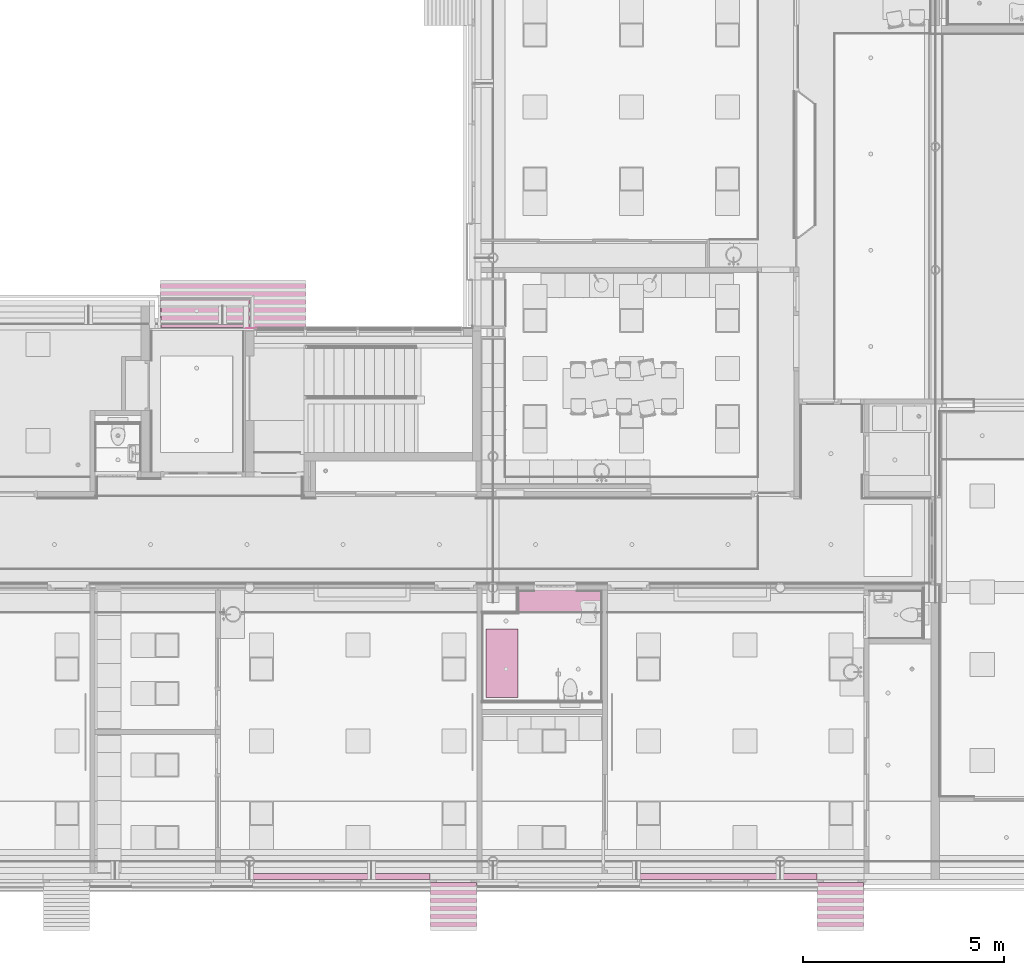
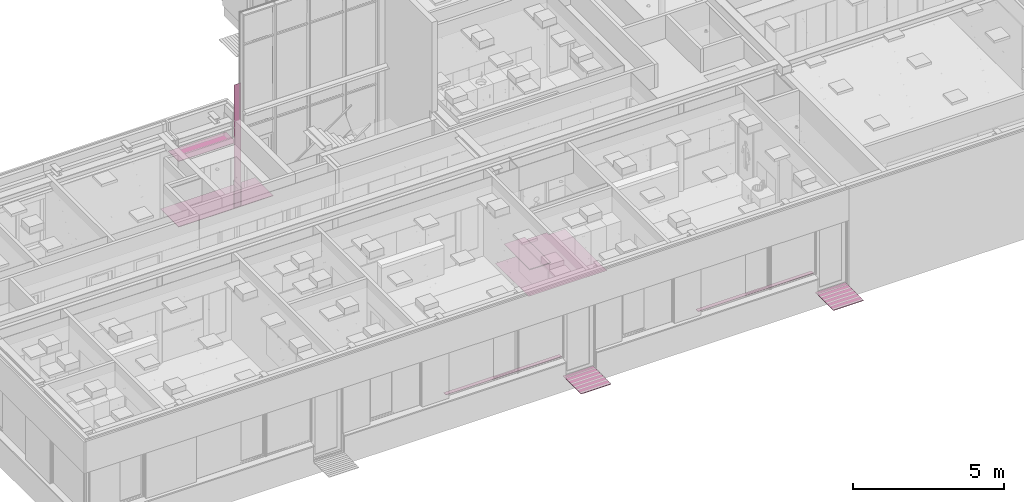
# One storey, part 318 of 347: 9 furnishings.
"""IFC2X3 building model written with IfcOpenShell, lengths in millimetres."""

import ifcopenshell
import ifcopenshell.guid

model = None  # the IFC model being written
_history = None  # IfcOwnerHistory: only IFC2X3 demands one
_inside = {}  # id of a spatial element -> (the spatial element, [elements in it])
_under = {}  # id of a project, library or spatial element -> (it, [spatial elements below it])
_declared = {}  # id of a project -> (the project, [libraries it declares])
_typed = {}  # id of a type object -> (the type object, [elements of that type])
_made_of = {}  # id of a material, layer set ... -> (it, [elements and type objects made of it])


def new_model(schema):
    """Start an empty IFC model of exactly this schema.

    Asked for "IFC4X3", IfcOpenShell would pick the latest addendum, in which some entities
    have other attributes; the version numbers below select the first issue.
    IFC2X3 requires an IfcOwnerHistory on every rooted entity: one is made here for all.
    """
    global model, _history
    if schema == "IFC4X3":
        model = ifcopenshell.file(schema_version=(4, 3, 0, 0))
    else:
        model = ifcopenshell.file(schema=schema)
    _inside.clear()
    _under.clear()
    _declared.clear()
    _typed.clear()
    _made_of.clear()
    _history = None
    if model.schema == "IFC2X3":
        org = make("IfcOrganization", Name="unknown")
        user = make(
            "IfcPersonAndOrganization",
            ThePerson=make("IfcPerson", FamilyName="unknown"),
            TheOrganization=org,
        )
        app = make(
            "IfcApplication",
            ApplicationDeveloper=org,
            Version="unknown",
            ApplicationFullName="unknown",
            ApplicationIdentifier="unknown",
        )
        _history = make(
            "IfcOwnerHistory",
            OwningUser=user,
            OwningApplication=app,
            ChangeAction="ADDED",
            CreationDate=0,
        )
    return model


def make(cls, **values):
    """One entity of the class cls with the attributes given. An attribute that is None is left unset."""
    return model.create_entity(
        cls, **{name: value for name, value in values.items() if value is not None}
    )


def entity(cls, *values):
    """Any entity or typed value of the class cls, its attributes in the order of the schema. None: left unset."""
    e = model.create_entity(cls)
    for i, value in enumerate(values):
        if value is not None:
            e[i] = value
    return e


def rooted(cls, **values):
    """An entity with a GlobalId (a new one), such as an element, a storey or a relation."""
    return make(cls, GlobalId=ifcopenshell.guid.new(), OwnerHistory=_history, **values)


def si_unit(unit_type, name, prefix=None):
    """IfcSIUnit, for example si_unit("LENGTHUNIT", "METRE", prefix="MILLI")."""
    return make("IfcSIUnit", UnitType=unit_type, Prefix=prefix, Name=name)


def converted_unit(unit_type, name, factor, base, dimensions=None, offset=None):
    """IfcConversionBasedUnit, such as the inch: factor (a typed value) times the base unit."""
    return make(
        "IfcConversionBasedUnit"
        if offset is None
        else "IfcConversionBasedUnitWithOffset",
        ConversionOffset=offset,
        Dimensions=None
        if dimensions is None
        else entity("IfcDimensionalExponents", *dimensions),
        UnitType=unit_type,
        Name=name,
        ConversionFactor=make(
            "IfcMeasureWithUnit", ValueComponent=factor, UnitComponent=base
        ),
    )


def derived_unit(unit_type, elements):
    """IfcDerivedUnit: a product of units, each with its exponent."""
    return make(
        "IfcDerivedUnit",
        Elements=[
            make("IfcDerivedUnitElement", Unit=unit, Exponent=power)
            for unit, power in elements
        ],
        UnitType=unit_type,
    )


def money_unit(currency):
    """IfcMonetaryUnit."""
    return make("IfcMonetaryUnit", Currency=currency)


def assignment(units):
    """IfcUnitAssignment: the units of a project."""
    return None if units is None else make("IfcUnitAssignment", Units=units)


def point(xyz):
    """IfcCartesianPoint."""
    return None if xyz is None else make("IfcCartesianPoint", Coordinates=xyz)


def direction(xyz):
    """IfcDirection."""
    return None if xyz is None else make("IfcDirection", DirectionRatios=xyz)


def frame(location, z_axis=None, x_axis=None):
    """IfcAxis2Placement3D, a coordinate frame: its origin and axes. An axis left out is left unset."""
    return make(
        "IfcAxis2Placement3D",
        Location=point(location),
        Axis=direction(z_axis),
        RefDirection=direction(x_axis),
    )


def origin_with_axes():
    """The frame at (0, 0, 0) with the z axis (0, 0, 1) and the x axis (1, 0, 0) written out."""
    return frame((0.0, 0.0, 0.0), z_axis=(0.0, 0.0, 1.0), x_axis=(1.0, 0.0, 0.0))


def place(relative_to, where):
    """IfcLocalPlacement: puts the frame where relative to a parent placement (None: the world)."""
    return make(
        "IfcLocalPlacement", PlacementRelTo=relative_to, RelativePlacement=where
    )


def context(
    kind, dimensions, precision=None, world=None, true_north=None, identifier=None
):
    """IfcGeometricRepresentationContext, for example the 3D "Model" context."""
    return make(
        "IfcGeometricRepresentationContext",
        ContextIdentifier=identifier,
        ContextType=kind,
        CoordinateSpaceDimension=dimensions,
        Precision=precision,
        WorldCoordinateSystem=world,
        TrueNorth=true_north,
    )


def subcontext(parent, identifier, kind, view, scale=None):
    """IfcGeometricRepresentationSubContext, for example "Body" below "Model"."""
    return make(
        "IfcGeometricRepresentationSubContext",
        ContextIdentifier=identifier,
        ContextType=kind,
        ParentContext=parent,
        TargetScale=scale,
        TargetView=view,
    )


def project(units=None, contexts=None):
    """IfcProject with its units and contexts."""
    return rooted(
        "IfcProject",
        Name="project",
        RepresentationContexts=contexts,
        UnitsInContext=assignment(units),
    )


def spatial(cls, under=None, at=None, **own):
    """A site, building, storey or space (cls), placed at a placement, below another one or the project."""
    s = rooted(cls, ObjectPlacement=at, **own)
    if under is not None:
        _under.setdefault(under.id(), (under, []))[1].append(s)
    return s


def faces_of(points, faces, orient=None, outer=None):
    """IfcFace entities. A face is a list of loops; a loop is a list of indices into points, from 0.

    orient and outer hold one flag for each loop. By default every Orientation is true, the
    first loop of a face is its IfcFaceOuterBound and the others are IfcFaceBound.
    """
    made = []
    for i, loops in enumerate(faces):
        bounds = []
        for j, loop in enumerate(loops):
            is_outer = j == 0 if outer is None else outer[i][j]
            bounds.append(
                make(
                    "IfcFaceOuterBound" if is_outer else "IfcFaceBound",
                    Bound=make("IfcPolyLoop", Polygon=[points[k] for k in loop]),
                    Orientation=True if orient is None else orient[i][j],
                )
            )
        made.append(make("IfcFace", Bounds=bounds))
    return made


def faceted_brep(points, faces, orient=None, outer=None, voids=None):
    """IfcFacetedBrep: a solid bounded by flat faces; with voids (closed shells), ...WithVoids."""
    shared = [point(p) for p in points]
    hull = make("IfcClosedShell", CfsFaces=faces_of(shared, faces, orient, outer))
    if voids is None:
        return make("IfcFacetedBrep", Outer=hull)
    return make(
        "IfcFacetedBrepWithVoids",
        Outer=hull,
        Voids=[
            make(cls, CfsFaces=faces_of(shared, fs, o, b)) for cls, fs, o, b in voids
        ],
    )


def shape(context_of_items, identifier, shape_type, items):
    """IfcShapeRepresentation: the items that make up one representation, for example the "Body"."""
    return make(
        "IfcShapeRepresentation",
        ContextOfItems=context_of_items,
        RepresentationIdentifier=identifier,
        RepresentationType=shape_type,
        Items=items,
    )


def material(Name=None, Category=None):
    """IfcMaterial."""
    return make("IfcMaterial", Name=Name, Category=Category)


def made_of(thing, what):
    """Note that an element or type object is made of a material, layer set ...; save() writes the relation."""
    if what is not None:
        _made_of.setdefault(what.id(), (what, []))[1].append(thing)
    return thing


def type_object(cls, material=None, **own):
    """A type object (cls), such as IfcWallType, which elements share."""
    return made_of(rooted(cls, **own), material)


def element(
    cls,
    number,
    at=None,
    inside=None,
    cuts=None,
    type_object=None,
    material=None,
    context=None,
    identifier="Body",
    shape_type=None,
    held_by="IfcProductDefinitionShape",
    body=None,
    shapes=None,
    **own,
):
    """One element of the class cls, such as IfcWall. Its Tag is "e" and its number.

    at: its placement. inside: the storey or other place that contains it. cuts: it is an
    opening in that element (IfcRelVoidsElement). A single representation is given by context,
    identifier, shape_type and body (its items); several are given by shapes. held_by: the class
    of the entity that holds the representations. save() writes the other relations.
    """
    e = rooted(cls, Tag="e%d" % number, ObjectPlacement=at, **own)
    if body is not None:
        shapes = [shape(context, identifier, shape_type, body)]
    if shapes is not None:
        e.Representation = make(held_by, Representations=shapes)
    if inside is not None:
        _inside.setdefault(inside.id(), (inside, []))[1].append(e)
    if cuts is not None:
        rooted(
            "IfcRelVoidsElement", RelatingBuildingElement=cuts, RelatedOpeningElement=e
        )
    if type_object is not None:
        _typed.setdefault(type_object.id(), (type_object, []))[1].append(e)
    return made_of(e, material)


def aggregate(whole, parts):
    """IfcRelAggregates: a whole, such as a stair, and the parts it consists of."""
    return rooted("IfcRelAggregates", RelatingObject=whole, RelatedObjects=parts)


def save(model, path):
    """Write the relations noted so far, then the file.

    IfcRelAggregates (storeys below a building ...), IfcRelContainedInSpatialStructure (elements
    in a storey), IfcRelDefinesByType, IfcRelAssociatesMaterial and IfcRelDeclares: one each for
    every whole, place, type object, material and project.
    """
    for whole, parts in _under.values():
        aggregate(whole, parts)
    for where, things in _inside.values():
        rooted(
            "IfcRelContainedInSpatialStructure",
            RelatedElements=things,
            RelatingStructure=where,
        )
    for kind, things in _typed.values():
        rooted("IfcRelDefinesByType", RelatedObjects=things, RelatingType=kind)
    for what, things in _made_of.values():
        rooted("IfcRelAssociatesMaterial", RelatedObjects=things, RelatingMaterial=what)
    for by, libraries in _declared.values():
        rooted("IfcRelDeclares", RelatingContext=by, RelatedDefinitions=libraries)
    model.write(path)


model = new_model("IFC2X3")

# Units and contexts
model_context = context("Model", 3, precision=0.01, world=origin_with_axes(), true_north=direction((0.0, 1.0)))
plan_context = context("Plan", 3, precision=0.01, world=origin_with_axes(), true_north=direction((0.0, 1.0)))
body_context = subcontext(model_context, "Body", "Model", "MODEL_VIEW")
ifc_project = project(units=[si_unit("LENGTHUNIT", "METRE", prefix="MILLI"), si_unit("AREAUNIT", "SQUARE_METRE"), si_unit("VOLUMEUNIT", "CUBIC_METRE"), converted_unit("PLANEANGLEUNIT", "DEGREE", entity("IfcPlaneAngleMeasure", 0.0174532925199), si_unit("PLANEANGLEUNIT", "RADIAN"), dimensions=[0, 0, 0, 0, 0, 0, 0]), money_unit("EUR"), converted_unit("TIMEUNIT", "Year", entity("IfcTimeMeasure", 31556926.0), si_unit("TIMEUNIT", "SECOND"), dimensions=[0, 0, 1, 0, 0, 0, 0]), si_unit("MASSUNIT", "GRAM", prefix="KILO"), si_unit("THERMODYNAMICTEMPERATUREUNIT", "DEGREE_CELSIUS"), si_unit("LUMINOUSINTENSITYUNIT", "LUMEN"), si_unit("ENERGYUNIT", "JOULE", prefix="MEGA"), derived_unit("THERMALCONDUCTANCEUNIT", [(si_unit("POWERUNIT", "WATT"), 1), (si_unit("LENGTHUNIT", "METRE"), -1), (si_unit("THERMODYNAMICTEMPERATUREUNIT", "KELVIN"), -1)]), derived_unit("SPECIFICHEATCAPACITYUNIT", [(si_unit("ENERGYUNIT", "JOULE"), 1), (si_unit("MASSUNIT", "GRAM", prefix="KILO"), -1), (si_unit("THERMODYNAMICTEMPERATUREUNIT", "KELVIN"), -1)]), derived_unit("MASSDENSITYUNIT", [(si_unit("MASSUNIT", "GRAM", prefix="KILO"), 1), (si_unit("VOLUMEUNIT", "CUBIC_METRE"), -1)])], contexts=[model_context, plan_context])

# Site, building, storey
site_placement = place(None, origin_with_axes())
site = spatial("IfcSite", under=ifc_project, at=site_placement, Name="Site", CompositionType="ELEMENT")
building_placement = place(site_placement, origin_with_axes())
building = spatial("IfcBuilding", under=site, at=building_placement, Name="Naam gebouw", CompositionType="ELEMENT")
storey_placement = place(building_placement, origin_with_axes())
storey = spatial("IfcBuildingStorey", under=building, at=storey_placement, Name="begane grond", CompositionType="ELEMENT", Elevation=0.0)

# Furnishings
ifc_material_1 = material(Name="ALG - LICHTE SCHEIDINGSWAND")
furniture_type_1 = type_object("IfcFurnitureType", Name="44 koof plaf 50", AssemblyPlace="NOTDEFINED")
furnishing_1_placement = place(storey_placement, frame((16295.0000653, 18615.0, 2600.0), z_axis=(0.0, 0.0, 1.0), x_axis=(1.0, 0.0, 0.0)))
element("IfcFurnishingElement", 1, at=furnishing_1_placement, inside=storey, type_object=furniture_type_1, material=ifc_material_1, Name="72_75 vaste inrichting", ObjectType="SHELF", context=body_context, shape_type="Brep", body=[
    faceted_brep([(0.0, 535.000088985, 4.99999880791), (2039.99993473, 535.000088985, 4.99999880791), (2039.99993473, 0.0, 4.99999880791), (2224.99993138, 0.0, 4.99999880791), (2224.99993138, 699.999996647, 4.99999880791), (0.0, 699.999996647, 4.99999880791), (0.0, 535.000088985, 12.0), (2039.99993473, 535.000088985, 12.0), (2039.99993473, 0.0, 12.0), (0.0, 0.0, 12.0), (0.0, 0.0, 0.0), (2224.99993138, 0.0, 0.0), (2224.99993138, 699.999996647, 0.0), (0.0, 699.999996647, 0.0)], [[[0, 1, 2, 3, 4, 5]], [[6, 7, 1, 0]], [[2, 1, 7, 8]], [[3, 2, 8, 9, 10, 11]], [[12, 4, 3, 11]], [[5, 4, 12, 13]], [[6, 0, 5, 13, 10, 9]], [[9, 8, 7, 6]], [[12, 11, 10, 13]]]),
])
ifc_material_2 = material(Name="Hout - Spaanplaat")
furniture_type_2 = type_object("IfcFurnitureType", Name="Hout - Spaanplaat 20", AssemblyPlace="NOTDEFINED")
furnishing_2_placement = place(storey_placement, frame((24400.0, 9390.0, 1000.0), z_axis=(0.0, 0.0, 1.0), x_axis=(1.0, 0.0, 0.0)))
element("IfcFurnishingElement", 2, at=furnishing_2_placement, inside=storey, type_object=furniture_type_2, material=ifc_material_2, Name="72_72 vaste inrichting", ObjectType="SHELF", context=body_context, shape_type="Brep", body=[
    faceted_brep([(0.0, 0.0, 0.0), (0.0, 0.0, -20.0), (800.0, 0.0, -20.0), (800.0, 0.0, 0.0), (0.0, 1700.0, 0.0), (0.0, 1700.0, -20.0), (800.0, 1700.0, -20.0), (800.0, 1700.0, 0.0)], [[[0, 1, 2, 3]], [[4, 5, 1, 0]], [[2, 1, 5, 6]], [[3, 2, 6, 7]], [[4, 0, 3, 7]], [[7, 6, 5, 4]]]),
])
ifc_material_3 = material(Name="42 vensterbank")
furniture_type_3 = type_object("IfcFurnitureType", Name="42 vensterbank 20", AssemblyPlace="NOTDEFINED")
for number, where, z_axis, x_axis, name in (
    (3, (22998.0, 5000.00003278, 720.0), (0.0, 0.0, 1.0), (1.0, 0.0, 0.0), "72_73 vaste inrichting"),
    (4, (32648.0, 4999.99997365, 720.0), (0.0, 0.0, 1.0), (1.0, 0.0, 0.0), "72_73 vaste inrichting"),
):
    element("IfcFurnishingElement", number, at=place(storey_placement, frame(where, z_axis=z_axis, x_axis=x_axis)), inside=storey, type_object=furniture_type_3, material=ifc_material_3, Name=name, ObjectType="SHELF", context=body_context, shape_type="Brep", body=[
        faceted_brep([(0.0, 0.0, 0.0), (0.0, 0.0, -20.0), (-4422.99728633, 0.0, -20.0), (-4422.99728633, 0.0, 0.0), (0.0, -150.000004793, 0.0), (0.0, -150.000004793, -20.0), (-4422.99728633, -150.000004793, -20.0), (-4422.99728633, -150.000004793, 0.0)], [[[0, 1, 2, 3]], [[4, 5, 1, 0]], [[2, 1, 5, 6]], [[3, 2, 6, 7]], [[4, 0, 3, 7]], [[7, 6, 5, 4]]]),
    ])
ifc_material_4 = material(Name="24 Hout gevelbekleding Lariks master")
furniture_type_4 = type_object("IfcFurnitureType", Name="24 Hout gevelbekleding Lariks master 4980", AssemblyPlace="NOTDEFINED")
furnishing_3_placement = place(storey_placement, frame((18677.0, 18595.0000003, 0.0), z_axis=(0.0, 0.0, 1.0), x_axis=(1.0, 0.0, 0.0)))
element("IfcFurnishingElement", 5, at=furnishing_3_placement, inside=storey, type_object=furniture_type_4, material=ifc_material_4, Name="72_74 vaste inrichting", ObjectType="SHELF", context=body_context, shape_type="Brep", body=[
    faceted_brep([(0.0, 0.0, 4980.0), (0.0, 0.0, 0.0), (-272.000002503, 0.0, 0.0), (-272.000002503, 0.0, 4980.0), (0.0, -2.00000110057, 4980.0), (0.0, -2.00000110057, 0.0), (-272.000002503, -2.00000110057, 0.0), (-272.000002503, -2.00000110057, 4980.0)], [[[0, 1, 2, 3]], [[4, 5, 1, 0]], [[2, 1, 5, 6]], [[3, 2, 6, 7]], [[4, 0, 3, 7]], [[7, 6, 5, 4]]]),
])
ifc_material_5 = material(Name="Metaal - Aluminium")
furniture_type_5 = type_object("IfcFurnitureType", Name="Metaal - Aluminium 25", AssemblyPlace="NOTDEFINED")
furnishing_4_placement = place(storey_placement, frame((16285.0000653, 18595.0, -15.0), z_axis=(0.0, 0.0, 1.0), x_axis=(1.0, 0.0, 0.0)))
element("IfcFurnishingElement", 6, at=furnishing_4_placement, inside=storey, type_object=furniture_type_5, material=ifc_material_5, Name="72_43 schoonloop zone 1", ObjectType="SHELF", context=body_context, shape_type="Brep", body=[
    faceted_brep([(0.0, 0.0, 0.0), (0.0, 0.0, -25.0), (3619.99993473, 0.0, -25.0), (3619.99993473, 0.0, 0.0), (0.0, 1199.99997171, 0.0), (0.0, 1199.99997171, -25.0), (3619.99993473, 1199.99997171, -25.0), (3619.99993473, 1199.99997171, 0.0)], [[[0, 1, 2, 3]], [[4, 5, 1, 0]], [[2, 1, 5, 6]], [[3, 2, 6, 7]], [[4, 0, 3, 7]], [[7, 6, 5, 4]]]),
])
for number, where, z_axis, x_axis, name in (
    (7, (33812.0, 4778.00002055, -15.0), (0.0, 0.0, 1.0), (1.0, 0.0, 0.0), "72_43 schoonloop zone 1"),
    (8, (24162.0, 4778.00002055, -15.0), (0.0, 0.0, 1.0), (1.0, 0.0, 0.0), "72_43 schoonloop zone 1"),
):
    element("IfcFurnishingElement", number, at=place(storey_placement, frame(where, z_axis=z_axis, x_axis=x_axis)), inside=storey, type_object=furniture_type_5, material=ifc_material_5, Name=name, ObjectType="SHELF", context=body_context, shape_type="Brep", body=[
        faceted_brep([(0.0, 0.0, 0.0), (0.0, 0.0, -25.0), (-1150.0, 0.0, -25.0), (-1150.0, 0.0, 0.0), (0.0, -1199.99997171, 0.0), (0.0, -1199.99997171, -25.0), (-1150.0, -1199.99997171, -25.0), (-1150.0, -1199.99997171, 0.0)], [[[0, 1, 2, 3]], [[4, 5, 1, 0]], [[2, 1, 5, 6]], [[3, 2, 6, 7]], [[4, 0, 3, 7]], [[7, 6, 5, 4]]]),
    ])
ifc_material_6 = material(Name="48 vloeivloer Bolidt")
furniture_type_6 = type_object("IfcFurnitureType", Name="48 vloeivloer Bolidt 2", AssemblyPlace="NOTDEFINED")
furnishing_5_placement = place(storey_placement, frame((24300.0000066, 9290.0, 0.0), z_axis=(0.0, 0.0, 1.0), x_axis=(1.0, 0.0, 0.0)))
element("IfcFurnishingElement", 9, at=furnishing_5_placement, inside=storey, type_object=furniture_type_6, material=ifc_material_6, Name="72_43 vloeivloer", ObjectType="SHELF", context=body_context, shape_type="Brep", body=[
    faceted_brep([(0.0, 0.0, 2.0), (0.0, 0.0, 0.0), (2999.99999341, 0.0, 0.0), (2999.99999341, 0.0, 2.0), (0.0, 2209.99995044, 2.0), (0.0, 2209.99995044, 0.0), (899.999998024, 2209.99995044, 0.0), (899.999998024, 2772.49999391, 0.0), (1299.99999715, 2772.49999391, 0.0), (1299.99999715, 2897.49999364, 0.0), (2363.99997693, 2897.49999364, 0.0), (2363.99997693, 2772.49999391, 0.0), (2999.99999341, 2772.49999391, 0.0), (2999.99999341, 2772.49999391, 2.0), (2363.99997693, 2772.49999391, 2.0), (2363.99997693, 2897.49999364, 2.0), (1299.99999715, 2897.49999364, 2.0), (1299.99999715, 2772.49999391, 2.0), (899.999998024, 2772.49999391, 2.0), (899.999998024, 2209.99995044, 2.0)], [[[0, 1, 2, 3]], [[4, 5, 1, 0]], [[2, 1, 5, 6, 7, 8, 9, 10, 11, 12]], [[3, 2, 12, 13]], [[4, 0, 3, 13, 14, 15, 16, 17, 18, 19]], [[19, 6, 5, 4]], [[18, 7, 6, 19]], [[17, 8, 7, 18]], [[16, 9, 8, 17]], [[15, 10, 9, 16]], [[14, 11, 10, 15]], [[13, 12, 11, 14]]]),
])

save(model, "model.ifc")
